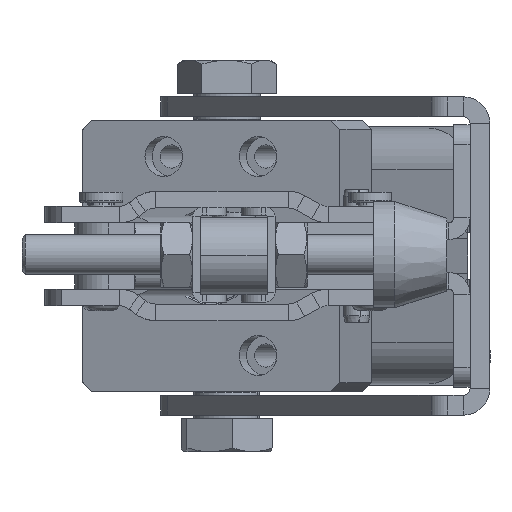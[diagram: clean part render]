
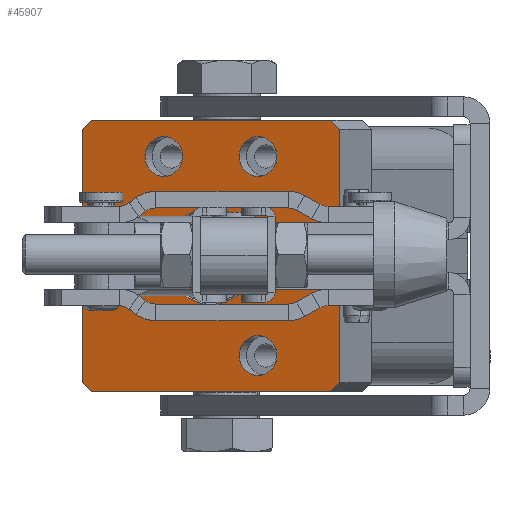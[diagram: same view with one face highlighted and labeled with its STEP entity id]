
A CAD part, left-side view. The second image highlights one B-rep face of the part: STEP entity #45907.
In plain terms, the highlighted planar face has unit normal (-0.948, 0.319, 0) as drawn and (-1, 0, 0) by its records, which use the part's own axes.
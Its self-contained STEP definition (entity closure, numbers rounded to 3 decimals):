
#351 = ORIENTED_EDGE ( 'NONE', *, *, #31103, .F. ) ;
#430 = FACE_BOUND ( 'NONE', #54756, .T. ) ;
#718 = CARTESIAN_POINT ( 'NONE',  ( 0., 0., 0. ) ) ;
#769 = CARTESIAN_POINT ( 'NONE',  ( 0., 20.5, 0. ) ) ;
#860 = EDGE_CURVE ( 'NONE', #33097, #28844, #33206, .T. ) ;
#1300 = FACE_BOUND ( 'NONE', #6452, .T. ) ;
#1820 = CARTESIAN_POINT ( 'NONE',  ( 0., -20.5, -19.072 ) ) ;
#2244 = CARTESIAN_POINT ( 'NONE',  ( 0., -7.5, -18. ) ) ;
#2378 = EDGE_LOOP ( 'NONE', ( #351, #17318 ) ) ;
#2748 = EDGE_CURVE ( 'NONE', #26131, #3362, #38980, .T. ) ;
#3362 = VERTEX_POINT ( 'NONE', #28570 ) ;
#3686 = VERTEX_POINT ( 'NONE', #16018 ) ;
#3960 = DIRECTION ( 'NONE',  ( 0., 0., 1. ) ) ;
#4221 = ORIENTED_EDGE ( 'NONE', *, *, #2748, .F. ) ;
#4691 = EDGE_CURVE ( 'NONE', #47865, #47269, #39486, .T. ) ;
#4804 = CARTESIAN_POINT ( 'NONE',  ( 0., 20.5, -19.072 ) ) ;
#5170 = EDGE_CURVE ( 'NONE', #11057, #47865, #9235, .T. ) ;
#5440 = DIRECTION ( 'NONE',  ( 0., 0., 1. ) ) ;
#5542 = CIRCLE ( 'NONE', #12784, 7.3 ) ;
#5758 = ORIENTED_EDGE ( 'NONE', *, *, #13254, .F. ) ;
#5952 = CARTESIAN_POINT ( 'NONE',  ( 0., -7.5, -15. ) ) ;
#6084 = DIRECTION ( 'NONE',  ( 0., 0., -1. ) ) ;
#6299 = EDGE_CURVE ( 'NONE', #43374, #52715, #31231, .T. ) ;
#6452 = EDGE_LOOP ( 'NONE', ( #5758, #46464 ) ) ;
#7071 = AXIS2_PLACEMENT_3D ( 'NONE', #13549, #30832, #52975 ) ;
#7705 = AXIS2_PLACEMENT_3D ( 'NONE', #13263, #44421, #47883 ) ;
#7867 = LINE ( 'NONE', #54710, #51213 ) ;
#8673 = EDGE_CURVE ( 'NONE', #3686, #23876, #55266, .T. ) ;
#9191 = ORIENTED_EDGE ( 'NONE', *, *, #42768, .T. ) ;
#9235 = LINE ( 'NONE', #48645, #22536 ) ;
#9626 = VERTEX_POINT ( 'NONE', #22650 ) ;
#10154 = DIRECTION ( 'NONE',  ( -1., 0., 0. ) ) ;
#10270 = EDGE_LOOP ( 'NONE', ( #38814, #40993 ) ) ;
#10799 = AXIS2_PLACEMENT_3D ( 'NONE', #718, #17985, #13750 ) ;
#10866 = CARTESIAN_POINT ( 'NONE',  ( 0., 0., 0. ) ) ;
#11057 = VERTEX_POINT ( 'NONE', #50410 ) ;
#11125 = EDGE_LOOP ( 'NONE', ( #30457, #47206, #42760, #45310, #9191, #22965, #28037, #4221 ) ) ;
#11938 = AXIS2_PLACEMENT_3D ( 'NONE', #5952, #39942, #48803 ) ;
#12478 = DIRECTION ( 'NONE',  ( -1., 0., 0. ) ) ;
#12784 = AXIS2_PLACEMENT_3D ( 'NONE', #28070, #31235, #52818 ) ;
#12923 = CARTESIAN_POINT ( 'NONE',  ( 0., -7.5, 15. ) ) ;
#13228 = EDGE_CURVE ( 'NONE', #52715, #43374, #5542, .T. ) ;
#13254 = EDGE_CURVE ( 'NONE', #9626, #53844, #24537, .T. ) ;
#13263 = CARTESIAN_POINT ( 'NONE',  ( 0., 0., 0. ) ) ;
#13535 = EDGE_CURVE ( 'NONE', #28844, #33097, #40830, .T. ) ;
#13549 = CARTESIAN_POINT ( 'NONE',  ( 0., 0., 0. ) ) ;
#13750 = DIRECTION ( 'NONE',  ( 0., 0., 1. ) ) ;
#14599 = FACE_OUTER_BOUND ( 'NONE', #11125, .T. ) ;
#14732 = AXIS2_PLACEMENT_3D ( 'NONE', #53815, #32227, #49549 ) ;
#15170 = VECTOR ( 'NONE', #32352, 1000. ) ;
#16018 = CARTESIAN_POINT ( 'NONE',  ( 0., 19.072, 20.5 ) ) ;
#16396 = AXIS2_PLACEMENT_3D ( 'NONE', #12923, #12478, #3960 ) ;
#17318 = ORIENTED_EDGE ( 'NONE', *, *, #18901, .F. ) ;
#17985 = DIRECTION ( 'NONE',  ( -1., 0., 0. ) ) ;
#18151 = CARTESIAN_POINT ( 'NONE',  ( 0., 0., 0. ) ) ;
#18901 = EDGE_CURVE ( 'NONE', #34278, #35495, #20151, .T. ) ;
#19283 = CARTESIAN_POINT ( 'NONE',  ( 0., 7.5, 15. ) ) ;
#19573 = CARTESIAN_POINT ( 'NONE',  ( 0., -7.5, 12. ) ) ;
#19801 = CARTESIAN_POINT ( 'NONE',  ( 0., 7.5, 15. ) ) ;
#19817 = CIRCLE ( 'NONE', #28895, 28. ) ;
#19827 = CIRCLE ( 'NONE', #10799, 28. ) ;
#19912 = CARTESIAN_POINT ( 'NONE',  ( 0., 7.5, 12. ) ) ;
#19979 = CARTESIAN_POINT ( 'NONE',  ( 0., -19.072, 20.5 ) ) ;
#20151 = CIRCLE ( 'NONE', #14732, 3. ) ;
#21735 = DIRECTION ( 'NONE',  ( 0., 0., 1. ) ) ;
#21957 = DIRECTION ( 'NONE',  ( 0., -1., 0. ) ) ;
#22536 = VECTOR ( 'NONE', #21957, 1000. ) ;
#22650 = CARTESIAN_POINT ( 'NONE',  ( 0., 7.5, 18. ) ) ;
#22817 = FACE_BOUND ( 'NONE', #10270, .T. ) ;
#22965 = ORIENTED_EDGE ( 'NONE', *, *, #8673, .F. ) ;
#23406 = CARTESIAN_POINT ( 'NONE',  ( 0., -7.5, -12. ) ) ;
#23876 = VERTEX_POINT ( 'NONE', #19979 ) ;
#24125 = AXIS2_PLACEMENT_3D ( 'NONE', #31688, #10154, #53270 ) ;
#24537 = CIRCLE ( 'NONE', #28145, 3. ) ;
#25038 = CARTESIAN_POINT ( 'NONE',  ( 0., 0., -7.3 ) ) ;
#26081 = CARTESIAN_POINT ( 'NONE',  ( 0., -20.5, 19.072 ) ) ;
#26131 = VERTEX_POINT ( 'NONE', #4804 ) ;
#26440 = CIRCLE ( 'NONE', #53657, 3. ) ;
#27154 = ORIENTED_EDGE ( 'NONE', *, *, #6299, .T. ) ;
#28037 = ORIENTED_EDGE ( 'NONE', *, *, #55702, .T. ) ;
#28070 = CARTESIAN_POINT ( 'NONE',  ( 0., 0., 0. ) ) ;
#28134 = DIRECTION ( 'NONE',  ( 0., 0., -1. ) ) ;
#28145 = AXIS2_PLACEMENT_3D ( 'NONE', #19283, #32332, #5440 ) ;
#28570 = CARTESIAN_POINT ( 'NONE',  ( 0., 20.5, 19.072 ) ) ;
#28844 = VERTEX_POINT ( 'NONE', #19573 ) ;
#28884 = DIRECTION ( 'NONE',  ( 0., 0., 1. ) ) ;
#28895 = AXIS2_PLACEMENT_3D ( 'NONE', #18151, #35986, #52215 ) ;
#29678 = CIRCLE ( 'NONE', #7071, 28. ) ;
#29896 = VERTEX_POINT ( 'NONE', #26081 ) ;
#30457 = ORIENTED_EDGE ( 'NONE', *, *, #35568, .T. ) ;
#30832 = DIRECTION ( 'NONE',  ( -1., 0., 0. ) ) ;
#31103 = EDGE_CURVE ( 'NONE', #35495, #34278, #36332, .T. ) ;
#31231 = CIRCLE ( 'NONE', #32152, 7.3 ) ;
#31235 = DIRECTION ( 'NONE',  ( 1., 0., 0. ) ) ;
#31397 = EDGE_CURVE ( 'NONE', #53844, #9626, #26440, .T. ) ;
#31688 = CARTESIAN_POINT ( 'NONE',  ( 0., -7.5, 15. ) ) ;
#31910 = PLANE ( 'NONE',  #44420 ) ;
#32152 = AXIS2_PLACEMENT_3D ( 'NONE', #10866, #41980, #28134 ) ;
#32227 = DIRECTION ( 'NONE',  ( -1., 0., 0. ) ) ;
#32332 = DIRECTION ( 'NONE',  ( -1., 0., 0. ) ) ;
#32352 = DIRECTION ( 'NONE',  ( 0., -1., 0. ) ) ;
#33097 = VERTEX_POINT ( 'NONE', #54890 ) ;
#33206 = CIRCLE ( 'NONE', #24125, 3. ) ;
#34278 = VERTEX_POINT ( 'NONE', #2244 ) ;
#35495 = VERTEX_POINT ( 'NONE', #23406 ) ;
#35568 = EDGE_CURVE ( 'NONE', #26131, #11057, #19827, .T. ) ;
#35986 = DIRECTION ( 'NONE',  ( -1., 0., 0. ) ) ;
#36332 = CIRCLE ( 'NONE', #11938, 3. ) ;
#36875 = CARTESIAN_POINT ( 'NONE',  ( 0., -19.072, -20.5 ) ) ;
#37587 = DIRECTION ( 'NONE',  ( 0., 0., 1. ) ) ;
#38212 = CARTESIAN_POINT ( 'NONE',  ( 0., 0., 7.3 ) ) ;
#38814 = ORIENTED_EDGE ( 'NONE', *, *, #860, .F. ) ;
#38980 = LINE ( 'NONE', #769, #47495 ) ;
#39486 = CIRCLE ( 'NONE', #7705, 28. ) ;
#39942 = DIRECTION ( 'NONE',  ( -1., 0., 0. ) ) ;
#40824 = CARTESIAN_POINT ( 'NONE',  ( 0., 0., 20.5 ) ) ;
#40830 = CIRCLE ( 'NONE', #16396, 3. ) ;
#40915 = ORIENTED_EDGE ( 'NONE', *, *, #13228, .T. ) ;
#40993 = ORIENTED_EDGE ( 'NONE', *, *, #13535, .F. ) ;
#41980 = DIRECTION ( 'NONE',  ( 1., 0., 0. ) ) ;
#42760 = ORIENTED_EDGE ( 'NONE', *, *, #4691, .T. ) ;
#42768 = EDGE_CURVE ( 'NONE', #29896, #23876, #29678, .T. ) ;
#43374 = VERTEX_POINT ( 'NONE', #25038 ) ;
#44365 = FACE_BOUND ( 'NONE', #2378, .T. ) ;
#44420 = AXIS2_PLACEMENT_3D ( 'NONE', #49208, #44921, #6084 ) ;
#44421 = DIRECTION ( 'NONE',  ( -1., 0., 0. ) ) ;
#44921 = DIRECTION ( 'NONE',  ( 1., 0., 0. ) ) ;
#45310 = ORIENTED_EDGE ( 'NONE', *, *, #50264, .T. ) ;
#45907 = ADVANCED_FACE ( 'NONE', ( #44365, #22817, #1300, #430, #14599 ), #31910, .F. ) ;
#46464 = ORIENTED_EDGE ( 'NONE', *, *, #31397, .F. ) ;
#47206 = ORIENTED_EDGE ( 'NONE', *, *, #5170, .T. ) ;
#47269 = VERTEX_POINT ( 'NONE', #1820 ) ;
#47495 = VECTOR ( 'NONE', #21735, 1000. ) ;
#47865 = VERTEX_POINT ( 'NONE', #36875 ) ;
#47883 = DIRECTION ( 'NONE',  ( 0., 0., 1. ) ) ;
#48645 = CARTESIAN_POINT ( 'NONE',  ( 0., 0., -20.5 ) ) ;
#48803 = DIRECTION ( 'NONE',  ( 0., 0., 1. ) ) ;
#49208 = CARTESIAN_POINT ( 'NONE',  ( 0., 7., 0. ) ) ;
#49549 = DIRECTION ( 'NONE',  ( 0., 0., 1. ) ) ;
#50264 = EDGE_CURVE ( 'NONE', #47269, #29896, #7867, .T. ) ;
#50410 = CARTESIAN_POINT ( 'NONE',  ( 0., 19.072, -20.5 ) ) ;
#51213 = VECTOR ( 'NONE', #37587, 1000. ) ;
#52215 = DIRECTION ( 'NONE',  ( 0., 0., 1. ) ) ;
#52715 = VERTEX_POINT ( 'NONE', #38212 ) ;
#52818 = DIRECTION ( 'NONE',  ( 0., 0., -1. ) ) ;
#52975 = DIRECTION ( 'NONE',  ( 0., 0., 1. ) ) ;
#53270 = DIRECTION ( 'NONE',  ( 0., 0., 1. ) ) ;
#53657 = AXIS2_PLACEMENT_3D ( 'NONE', #19801, #54463, #28884 ) ;
#53815 = CARTESIAN_POINT ( 'NONE',  ( 0., -7.5, -15. ) ) ;
#53844 = VERTEX_POINT ( 'NONE', #19912 ) ;
#54463 = DIRECTION ( 'NONE',  ( -1., 0., 0. ) ) ;
#54710 = CARTESIAN_POINT ( 'NONE',  ( 0., -20.5, 0. ) ) ;
#54756 = EDGE_LOOP ( 'NONE', ( #40915, #27154 ) ) ;
#54890 = CARTESIAN_POINT ( 'NONE',  ( 0., -7.5, 18. ) ) ;
#55266 = LINE ( 'NONE', #40824, #15170 ) ;
#55702 = EDGE_CURVE ( 'NONE', #3686, #3362, #19817, .T. ) ;
